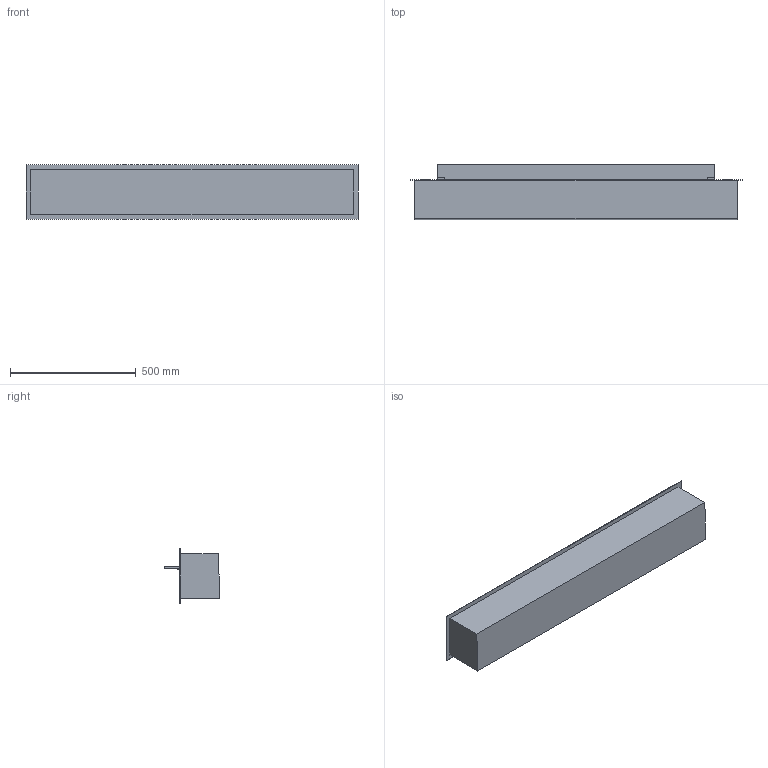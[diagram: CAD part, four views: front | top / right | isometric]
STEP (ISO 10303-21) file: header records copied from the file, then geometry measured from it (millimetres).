
FILE_DESCRIPTION (( 'STEP AP203' ), '1' );
FILE_NAME ('Denver F6 1320.STEP', '2024-03-13T09:20:06', ( '' ), ( '' ), 'SwSTEP 2.0', 'SolidWorks 2023', '' );
FILE_SCHEMA (( 'CONFIG_CONTROL_DESIGN' ));
Length unit declared in the file: millimetre
Products named in the file (1): Denver F6 1320
Bounding box: 1320 x 220 x 215 mm (x, y, z)
Volume: 36530019 mm3; surface area: 1670443.5 mm2
Topology: 8 solids, 8 shells, 68 faces, 156 edges, 104 vertices
Faces by surface type: plane 68
Entity records: 1955 total; most frequent: CARTESIAN_POINT 329, ORIENTED_EDGE 312, DIRECTION 294, LINE 156, EDGE_CURVE 156, VECTOR 156, VERTEX_POINT 104, EDGE_LOOP 74
